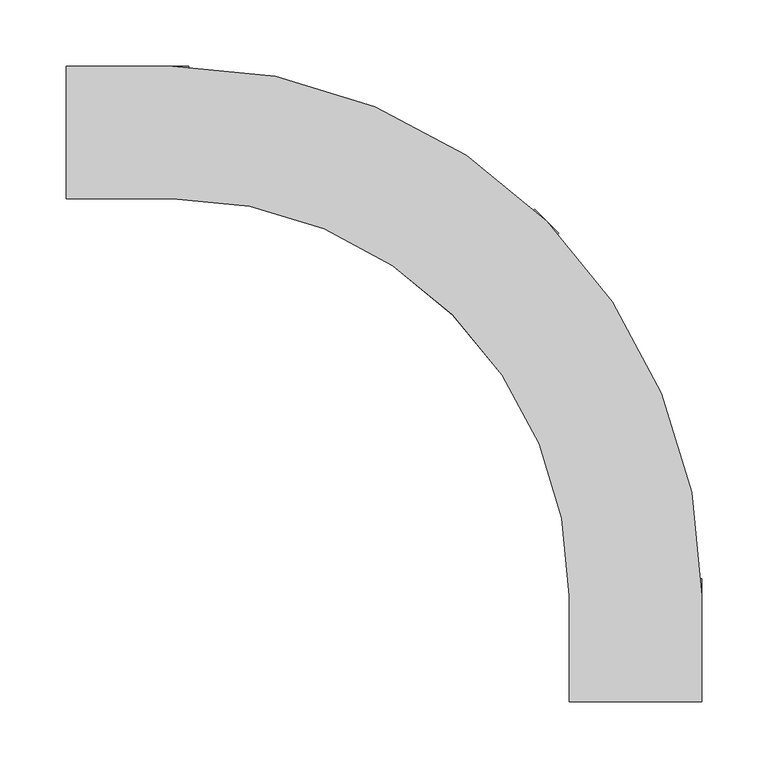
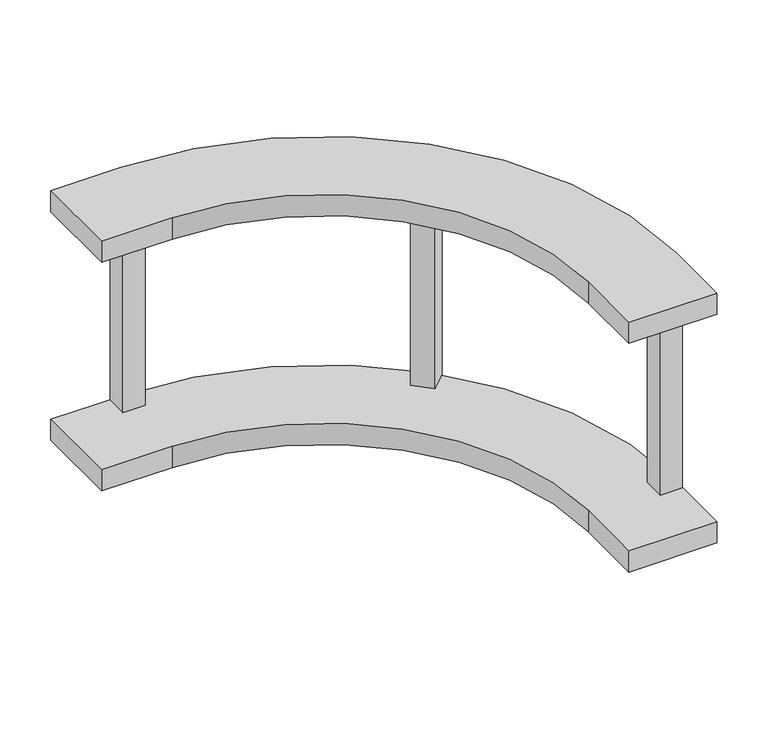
"""IFC4 building model written with IfcOpenShell, lengths in millimetres: cable carrier fitting geometry, 61_CTF_kabelgoot_open_bocht_verticaal_binnen : bocht verticaal binnen, standaard."""

from ifc_helpers import new_model, si_unit, point, frame, frame_2d, origin, place, context, project, spatial, polyline, circle_curve, trimmed, segment, composite_curve, outline, extrude, source, transform, mapped, element, save


def cable_carrier_fitting_f7e50797(model_context):
    return source(origin(), model_context, "Body", "SweptSolid", [
        extrude(outline(polyline([(24.6, -362.7), (24.6, -337.3), (50.0, -337.3), (50.0, -362.7), (24.6, -362.7)])), frame((0.0, 0.0, -124.6), z_axis=(0.0, 0.0, 1.0), x_axis=(1.0, 0.0, 0.0)), (0.0, 0.0, 1.0), 249.2),
        extrude(outline(polyline([(-76.1375436, -94.0980559), (-94.0980559, -76.1375436), (-76.1375436, -58.1770314), (-58.1770314, -76.1375436), (-76.1375436, -94.0980559)])), frame((0.0, 0.0, -124.6), z_axis=(0.0, 0.0, 1.0), x_axis=(1.0, 0.0, 0.0)), (0.0, 0.0, 1.0), 249.2),
        extrude(outline(polyline([(-362.7, 50.0), (-337.3, 50.0), (-337.3, 24.6), (-362.7, 24.6), (-362.7, 50.0)])), frame((0.0, 0.0, -124.6), z_axis=(0.0, 0.0, 1.0), x_axis=(1.0, 0.0, 0.0)), (0.0, 0.0, 1.0), 249.2),
        extrude(outline(composite_curve([segment(polyline([(-430.0, 50.0), (-350.0, 50.0)]), True, "CONTINUOUS"), segment(trimmed(circle_curve(frame_2d((-350.0, -350.0)), 400.0), [point((-350.0, 50.0))], [point((50.0, -350.0))], False, "CARTESIAN"), True, "CONTINUOUS"), segment(polyline([(50.0, -350.0), (50.0, -430.0), (-50.0, -430.0), (-50.0, -350.0)]), True, "CONTINUOUS"), segment(trimmed(circle_curve(frame_2d((-350.0, -350.0)), 300.0), [point((-50.0, -350.0))], [point((-350.0, -50.0))], True, "CARTESIAN"), True, "CONTINUOUS"), segment(polyline([(-350.0, -50.0), (-430.0, -50.0), (-430.0, 50.0)]), True, "CONTINUOUS")], self_intersect=False)), frame((0.0, 0.0, 124.6), z_axis=(0.0, 0.0, 1.0), x_axis=(1.0, 0.0, 0.0)), (0.0, 0.0, 1.0), 25.4),
        extrude(outline(composite_curve([segment(polyline([(-430.0, 50.0), (-350.0, 50.0)]), True, "CONTINUOUS"), segment(trimmed(circle_curve(frame_2d((-350.0, -350.0)), 400.0), [point((-350.0, 50.0))], [point((50.0, -350.0))], False, "CARTESIAN"), True, "CONTINUOUS"), segment(polyline([(50.0, -350.0), (50.0, -430.0), (-50.0, -430.0), (-50.0, -350.0)]), True, "CONTINUOUS"), segment(trimmed(circle_curve(frame_2d((-350.0, -350.0)), 300.0), [point((-50.0, -350.0))], [point((-350.0, -50.0))], True, "CARTESIAN"), True, "CONTINUOUS"), segment(polyline([(-350.0, -50.0), (-430.0, -50.0), (-430.0, 50.0)]), True, "CONTINUOUS")], self_intersect=False)), frame((0.0, 0.0, -150.0), z_axis=(0.0, 0.0, 1.0), x_axis=(1.0, 0.0, 0.0)), (0.0, 0.0, 1.0), 25.4),
    ])


if __name__ == "__main__":
    model = new_model("IFC4")
    model_context = context("Model", 3, world=origin())
    ifc_project = project(units=[si_unit("LENGTHUNIT", "METRE", prefix="MILLI")], contexts=[model_context])
    site = spatial("IfcSite", under=ifc_project)
    building = spatial("IfcBuilding", under=site)
    placement = place(None, origin())
    cable_carrier_fitting_shape = cable_carrier_fitting_f7e50797(model_context)
    element("IfcCableCarrierFitting", 1, ObjectType="61_CTF_kabelgoot_open_bocht_verticaal_binnen : bocht verticaal binnen, standaard", at=placement, inside=building, context=model_context, shape_type="MappedRepresentation", body=[
        mapped(cable_carrier_fitting_shape, transform((0.0, 0.0, 0.0), x_axis=(1.0, 0.0, 0.0), y_axis=(0.0, 1.0, 0.0), z_axis=(0.0, 0.0, 1.0))),
    ])
    save(model, "model.ifc")
